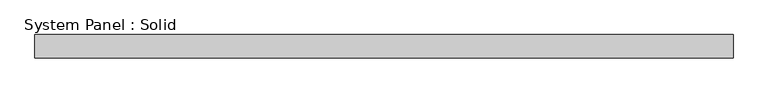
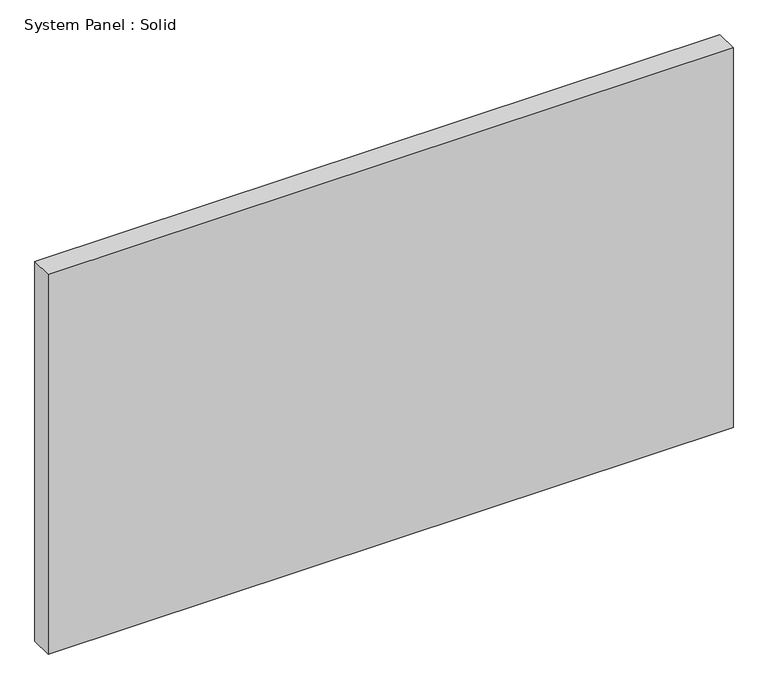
"""IFC4 building model written with IfcOpenShell, lengths in millimetres: plate geometry, System Panel : Solid."""

from ifc_helpers import new_model, si_unit, origin, origin_with_axes, place, context, project, spatial, polyline, outline, extrude, source, transform, mapped, element, save


def system_panel_solid_ac74ffd1(model_context):
    return source(origin(), model_context, "Body", "SweptSolid", [
        extrude(outline(polyline([(958.85, -44.45), (-958.85, -44.45), (-958.85, 19.05), (958.85, 19.05), (958.85, -44.45)])), origin_with_axes(), (0.0, 0.0, 1.0), 1123.95),
    ])


if __name__ == "__main__":
    model = new_model("IFC4")
    model_context = context("Model", 3, world=origin())
    ifc_project = project(units=[si_unit("LENGTHUNIT", "METRE", prefix="MILLI")], contexts=[model_context])
    site = spatial("IfcSite", under=ifc_project)
    building = spatial("IfcBuilding", under=site)
    placement = place(None, origin())
    system_panel_solid_shape = system_panel_solid_ac74ffd1(model_context)
    element("IfcPlate", 1, ObjectType="System Panel : Solid", at=placement, inside=building, context=model_context, shape_type="MappedRepresentation", body=[
        mapped(system_panel_solid_shape, transform((0.0, 0.0, 0.0), x_axis=(1.0, 0.0, 0.0), y_axis=(0.0, 1.0, 0.0), z_axis=(0.0, 0.0, 1.0))),
    ])
    save(model, "model.ifc")
